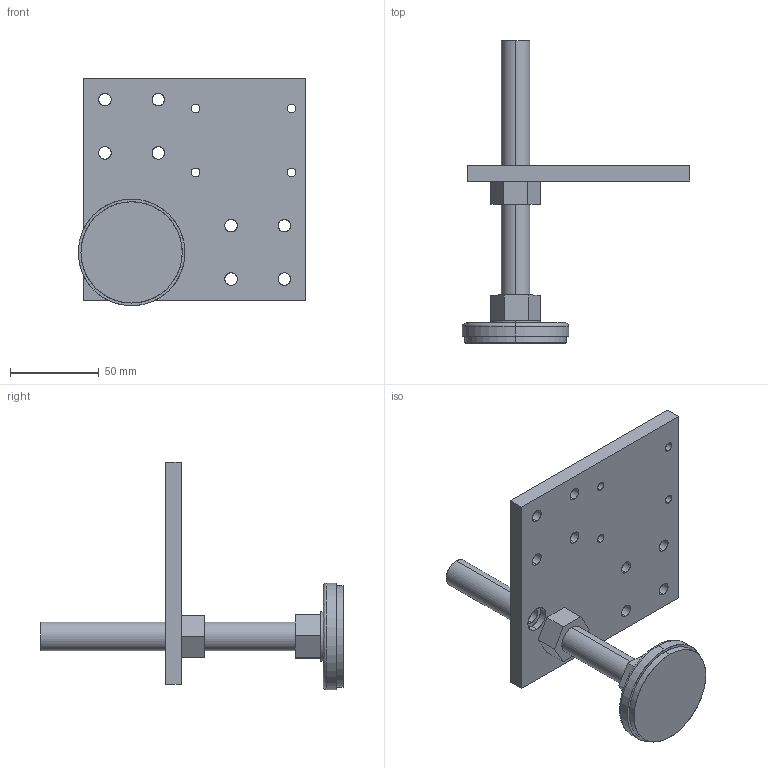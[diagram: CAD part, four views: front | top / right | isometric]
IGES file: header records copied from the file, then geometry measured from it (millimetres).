
Start section: SolidWorks IGES file using analytic representation for surfaces
Global section: file name: C:\Documents and Settings\Administrator\デスクトップ\7回目指定保存後\SolidWorks\SF\SF30\Parts\アジャスタ\SFK-511A.IGS; native system: SolidWorks 2006 by SolidWorks Corporation; preprocessor: SolidWorks 2006 by SolidWorks Corporation; author: Administrator; date: 061222.162021; units: millimetre
Bounding box: 128 x 170 x 128 mm (x, y, z)
Surface area: 56003.2 mm2 (no closed solid volume)
Topology: 0 solids, 0 shells, 74 faces, 2616 edges, 2984 vertices
Faces by surface type: revolution 44, bspline 30
